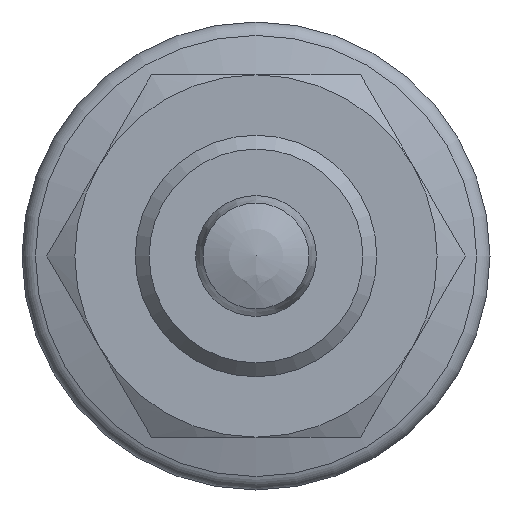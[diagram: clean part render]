
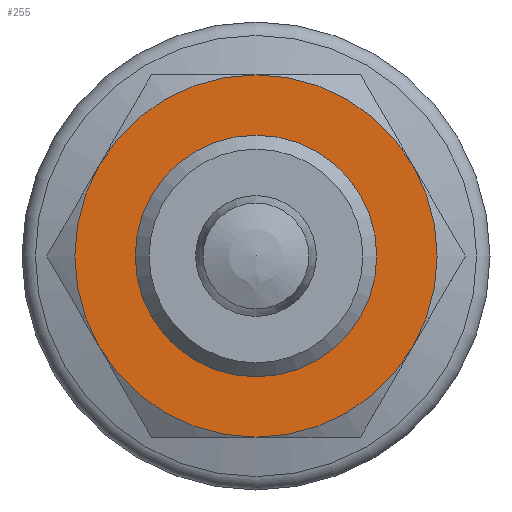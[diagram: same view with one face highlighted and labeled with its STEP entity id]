
A CAD part, front view. The second image highlights one B-rep face of the part: STEP entity #255.
In plain terms, the highlighted planar face has unit normal (0, -1, 0) as drawn and (0, 1, 0) by its records, which use the part's own axes.
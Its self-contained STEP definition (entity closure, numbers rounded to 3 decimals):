
#255 = ADVANCED_FACE( '', ( #393, #394 ), #395, .F. );
#393 = FACE_OUTER_BOUND( '', #581, .T. );
#394 = FACE_BOUND( '', #582, .T. );
#395 = PLANE( '', #583 );
#581 = EDGE_LOOP( '', ( #912, #913, #914, #915, #916, #917 ) );
#582 = EDGE_LOOP( '', ( #918 ) );
#583 = AXIS2_PLACEMENT_3D( '', #919, #920, #921 );
#912 = ORIENTED_EDGE( '', *, *, #1077, .F. );
#913 = ORIENTED_EDGE( '', *, *, #1079, .F. );
#914 = ORIENTED_EDGE( '', *, *, #1075, .F. );
#915 = ORIENTED_EDGE( '', *, *, #1082, .F. );
#916 = ORIENTED_EDGE( '', *, *, #1081, .F. );
#917 = ORIENTED_EDGE( '', *, *, #1076, .F. );
#918 = ORIENTED_EDGE( '', *, *, #1083, .T. );
#919 = CARTESIAN_POINT( '', ( 0., 8., 0. ) );
#920 = DIRECTION( '', ( 0., -1., 0. ) );
#921 = DIRECTION( '', ( 0., 0., -1. ) );
#1075 = EDGE_CURVE( '', #1199, #1208, #1239, .T. );
#1076 = EDGE_CURVE( '', #1226, #1232, #1240, .T. );
#1077 = EDGE_CURVE( '', #1241, #1226, #1242, .T. );
#1079 = EDGE_CURVE( '', #1208, #1241, #1244, .T. );
#1081 = EDGE_CURVE( '', #1232, #1236, #1246, .T. );
#1082 = EDGE_CURVE( '', #1236, #1199, #1247, .T. );
#1083 = EDGE_CURVE( '', #1248, #1248, #1249, .T. );
#1199 = VERTEX_POINT( '', #1463 );
#1208 = VERTEX_POINT( '', #1497 );
#1226 = VERTEX_POINT( '', #1551 );
#1232 = VERTEX_POINT( '', #1577 );
#1236 = VERTEX_POINT( '', #1600 );
#1239 = CIRCLE( '', #1615, 12. );
#1240 = CIRCLE( '', #1616, 12. );
#1241 = VERTEX_POINT( '', #1617 );
#1242 = CIRCLE( '', #1618, 12. );
#1244 = CIRCLE( '', #1625, 12. );
#1246 = CIRCLE( '', #1634, 12. );
#1247 = CIRCLE( '', #1635, 12. );
#1248 = VERTEX_POINT( '', #1636 );
#1249 = CIRCLE( '', #1637, 8. );
#1463 = CARTESIAN_POINT( '', ( -10.392, 8., -6. ) );
#1497 = CARTESIAN_POINT( '', ( 0., 8., -12. ) );
#1551 = CARTESIAN_POINT( '', ( 10.392, 8., 6. ) );
#1577 = CARTESIAN_POINT( '', ( 0., 8., 12. ) );
#1600 = CARTESIAN_POINT( '', ( -10.392, 8., 6. ) );
#1615 = AXIS2_PLACEMENT_3D( '', #1775, #1776, #1777 );
#1616 = AXIS2_PLACEMENT_3D( '', #1778, #1779, #1780 );
#1617 = CARTESIAN_POINT( '', ( 10.392, 8., -6. ) );
#1618 = AXIS2_PLACEMENT_3D( '', #1781, #1782, #1783 );
#1625 = AXIS2_PLACEMENT_3D( '', #1784, #1785, #1786 );
#1634 = AXIS2_PLACEMENT_3D( '', #1787, #1788, #1789 );
#1635 = AXIS2_PLACEMENT_3D( '', #1790, #1791, #1792 );
#1636 = CARTESIAN_POINT( '', ( 0., 8., -8. ) );
#1637 = AXIS2_PLACEMENT_3D( '', #1793, #1794, #1795 );
#1775 = CARTESIAN_POINT( '', ( 0., 8., 0. ) );
#1776 = DIRECTION( '', ( 0., -1., 0. ) );
#1777 = DIRECTION( '', ( 0., 0., -1. ) );
#1778 = CARTESIAN_POINT( '', ( 0., 8., 0. ) );
#1779 = DIRECTION( '', ( 0., -1., 0. ) );
#1780 = DIRECTION( '', ( 0., 0., -1. ) );
#1781 = CARTESIAN_POINT( '', ( 0., 8., 0. ) );
#1782 = DIRECTION( '', ( 0., -1., 0. ) );
#1783 = DIRECTION( '', ( 0., 0., -1. ) );
#1784 = CARTESIAN_POINT( '', ( 0., 8., 0. ) );
#1785 = DIRECTION( '', ( 0., -1., 0. ) );
#1786 = DIRECTION( '', ( 0., 0., -1. ) );
#1787 = CARTESIAN_POINT( '', ( 0., 8., 0. ) );
#1788 = DIRECTION( '', ( 0., -1., 0. ) );
#1789 = DIRECTION( '', ( 0., 0., -1. ) );
#1790 = CARTESIAN_POINT( '', ( 0., 8., 0. ) );
#1791 = DIRECTION( '', ( 0., -1., 0. ) );
#1792 = DIRECTION( '', ( 0., 0., -1. ) );
#1793 = CARTESIAN_POINT( '', ( 0., 8., 0. ) );
#1794 = DIRECTION( '', ( 0., -1., 0. ) );
#1795 = DIRECTION( '', ( 0., 0., -1. ) );
